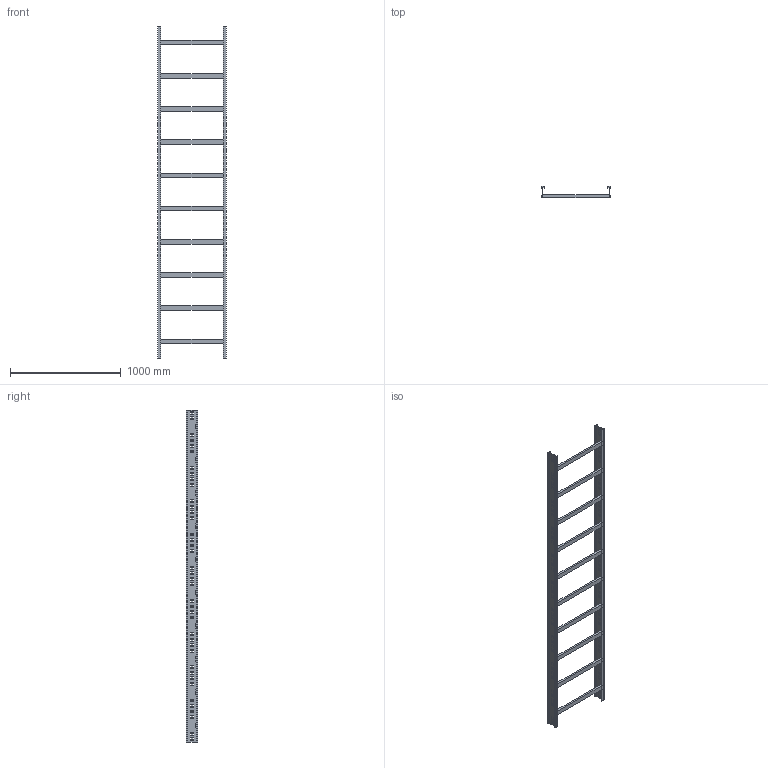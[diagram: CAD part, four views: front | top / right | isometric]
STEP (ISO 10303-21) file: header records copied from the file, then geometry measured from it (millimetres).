
FILE_DESCRIPTION (( 'STEP AP214' ), '1' );
FILE_NAME ('01S3D600.step', '2025-02-21T16:19:51', ( '' ), ( '' ), 'SwSTEP 2.0', 'SolidWorks 2023', '' );
FILE_SCHEMA (( 'AUTOMOTIVE_DESIGN' ));
Length unit declared in the file: millimetre
Products named in the file (3): LONGH.H100; TRAVERSINO_600; 01S3D600
Assembly tree (12 placements, depth 2):
  01S3D600
    LONGH.H100  x2
    TRAVERSINO_600  x10
Bounding box: 618 x 100 x 3000 mm (x, y, z)
Volume: 7963200 mm3; surface area: 2467011 mm2
Topology: 12 solids, 12 shells, 728 faces, 2112 edges, 1408 vertices
Faces by surface type: plane 728
Entity records: 11620 total; most frequent: CARTESIAN_POINT 2035, ORIENTED_EDGE 2016, DIRECTION 1718, VECTOR 1008, LINE 1008, EDGE_CURVE 1008, VERTEX_POINT 672, EDGE_LOOP 500
